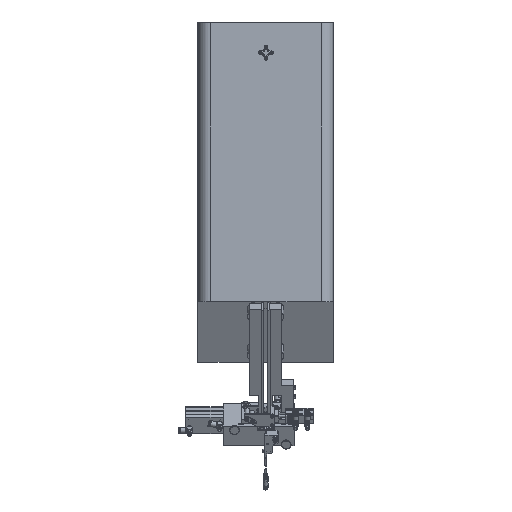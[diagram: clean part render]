
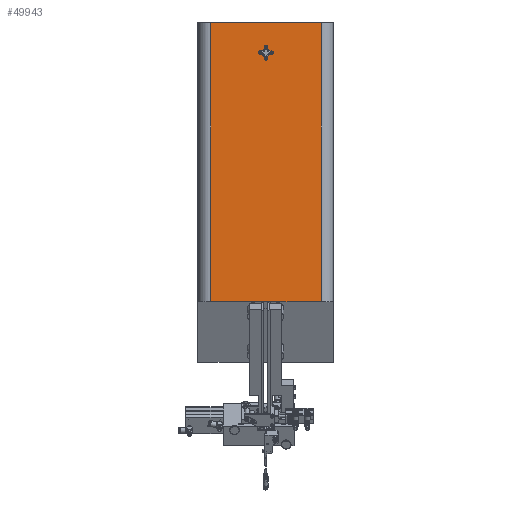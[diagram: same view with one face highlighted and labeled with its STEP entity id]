
A CAD part, top view. The second image highlights one B-rep face of the part: STEP entity #49943.
In plain terms, the highlighted planar face has unit normal (0, -0.004, 1).
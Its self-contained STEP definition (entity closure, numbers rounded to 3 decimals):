
#1191=FACE_BOUND($,#11773,.T.);
#2214=CIRCLE($,#53168,6.062);
#8415=FACE_OUTER_BOUND($,#11772,.T.);
#11772=EDGE_LOOP($,(#40778,#40779,#40780,#40781));
#11773=EDGE_LOOP($,(#40782));
#15990=LINE($,#81367,#19938);
#15991=LINE($,#81372,#19939);
#15993=LINE($,#81378,#19941);
#15995=LINE($,#81383,#19943);
#19938=VECTOR($,#61600,464.);
#19939=VECTOR($,#61607,184.);
#19941=VECTOR($,#61613,464.);
#19943=VECTOR($,#61619,184.);
#24930=VERTEX_POINT($,#81365);
#24931=VERTEX_POINT($,#81366);
#24932=VERTEX_POINT($,#81371);
#24934=VERTEX_POINT($,#81377);
#24936=VERTEX_POINT($,#81384);
#30620=EDGE_CURVE($,#24930,#24931,#15990,.T.);
#30623=EDGE_CURVE($,#24932,#24931,#15991,.T.);
#30626=EDGE_CURVE($,#24934,#24932,#15993,.T.);
#30629=EDGE_CURVE($,#24934,#24930,#15995,.T.);
#30630=EDGE_CURVE($,#24936,#24936,#2214,.T.);
#40778=ORIENTED_EDGE($,*,*,#30623,.T.);
#40779=ORIENTED_EDGE($,*,*,#30620,.F.);
#40780=ORIENTED_EDGE($,*,*,#30629,.F.);
#40781=ORIENTED_EDGE($,*,*,#30626,.T.);
#40782=ORIENTED_EDGE($,*,*,#30630,.T.);
#47564=PLANE($,#53167);
#49943=ADVANCED_FACE($,(#8415,#1191),#47564,.F.);
#53167=AXIS2_PLACEMENT_3D($,#81382,#61617,#61618);
#53168=AXIS2_PLACEMENT_3D($,#81385,#61620,#61621);
#61600=DIRECTION($,(0.,-1.,-0.004));
#61607=DIRECTION($,(1.,0.,0.));
#61613=DIRECTION($,(0.,-1.,-0.004));
#61617=DIRECTION('center_axis',(0.,0.004,
-1.));
#61618=DIRECTION('ref_axis',(-1.,0.,0.));
#61619=DIRECTION($,(1.,0.,0.));
#61620=DIRECTION('center_axis',(0.,0.004,
-1.));
#61621=DIRECTION('ref_axis',(-1.,0.,0.));
#81365=CARTESIAN_POINT('',(92.5,463.602,516.613));
#81366=CARTESIAN_POINT('',(92.5,-0.394,514.683));
#81367=CARTESIAN_POINT($,(92.5,463.602,516.613));
#81371=CARTESIAN_POINT('',(-91.5,-0.394,514.683));
#81372=CARTESIAN_POINT($,(-91.5,-0.394,514.683));
#81377=CARTESIAN_POINT('',(-91.5,463.602,516.613));
#81378=CARTESIAN_POINT($,(-91.5,463.602,516.613));
#81382=CARTESIAN_POINT('Origin',(-91.5,463.602,516.613));
#81383=CARTESIAN_POINT($,(-91.5,463.602,516.613));
#81384=CARTESIAN_POINT('',(0.5,419.665,516.43));
#81385=CARTESIAN_POINT('Origin',(0.5,413.603,516.405));
